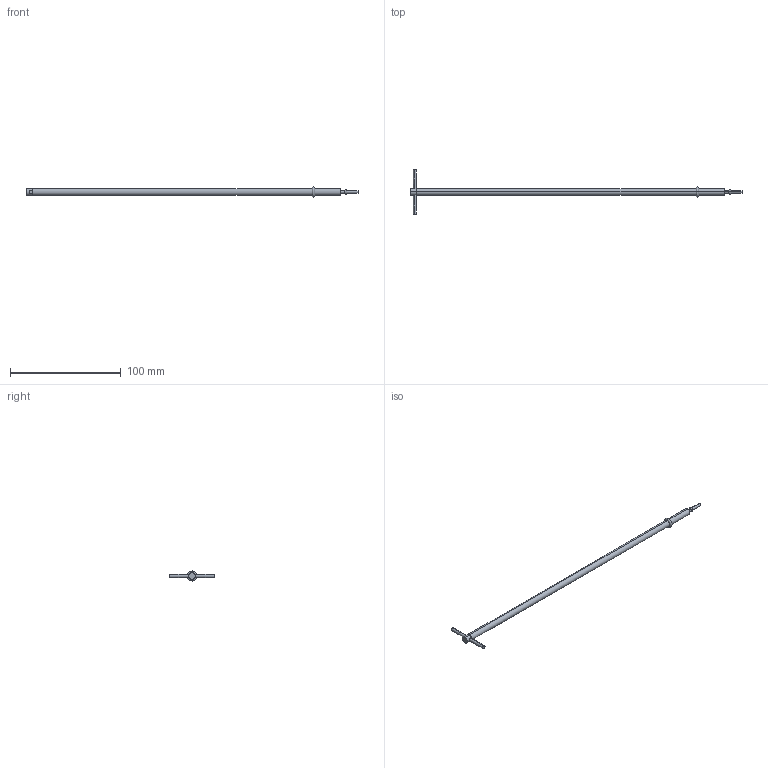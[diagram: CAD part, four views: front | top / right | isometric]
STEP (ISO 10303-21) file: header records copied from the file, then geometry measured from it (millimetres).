
FILE_DESCRIPTION (( 'STEP AP214' ), '1' );
FILE_NAME ('BRWV-306.STEP', '2020-06-23T10:52:11', ( '' ), ( '' ), 'SwSTEP 2.0', 'SolidWorks 2018', '' );
FILE_SCHEMA (( 'AUTOMOTIVE_DESIGN' ));
Length unit declared in the file: millimetre
Products named in the file (1): BRWV-306
Bounding box: 300 x 40 x 9.13 mm (x, y, z)
Volume: 8413.4 mm3; surface area: 6021.2 mm2
Topology: 1 solids, 1 shells, 27 faces, 52 edges, 32 vertices
Faces by surface type: cylinder 16, plane 7, torus 4
Entity records: 820 total; most frequent: CARTESIAN_POINT 212, DIRECTION 136, ORIENTED_EDGE 104, AXIS2_PLACEMENT_3D 60, EDGE_CURVE 52, CIRCLE 32, EDGE_LOOP 32, VERTEX_POINT 32
